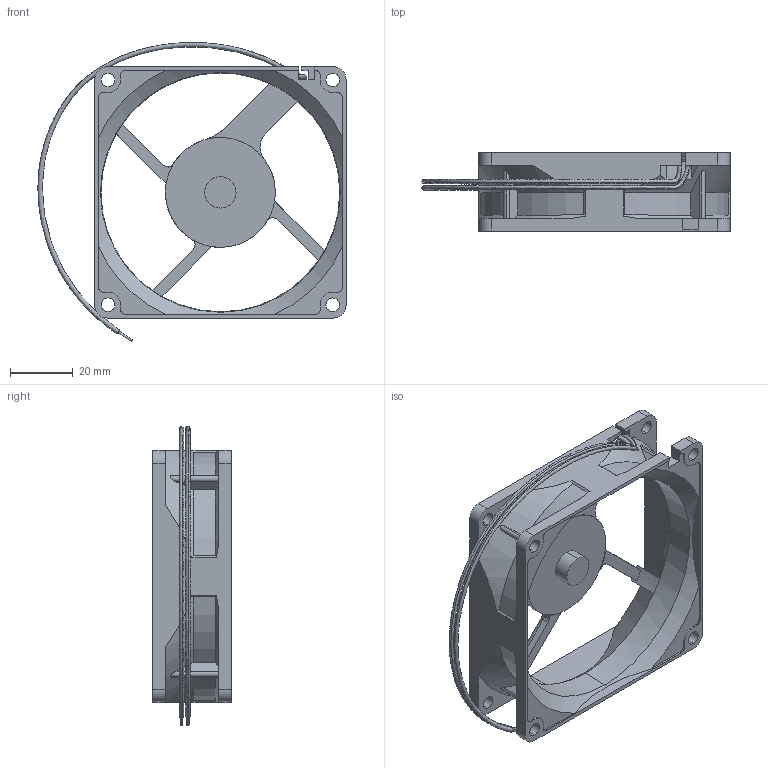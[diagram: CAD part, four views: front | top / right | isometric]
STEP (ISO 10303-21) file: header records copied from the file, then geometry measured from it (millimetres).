
FILE_DESCRIPTION (( 'STEP AP203' ), '1' );
FILE_NAME ('3110RL.STEP', '2017-01-20T07:38:25', ( 'ced' ), ( 'Hewlett-Packard Company' ), 'SwSTEP 2.0', 'SolidWorks 2014', '' );
FILE_SCHEMA (( 'CONFIG_CONTROL_DESIGN' ));
Length unit declared in the file: millimetre
Products named in the file (1): 3110RL
Bounding box: 98.06 x 25 x 95.18 mm (x, y, z)
Volume: 23548.9 mm3; surface area: 24680.5 mm2
Topology: 5 solids, 5 shells, 268 faces, 764 edges, 499 vertices
Faces by surface type: plane 127, cylinder 98, cone 23, bspline 20
Entity records: 11930 total; most frequent: CARTESIAN_POINT 4967, ORIENTED_EDGE 1528, DIRECTION 1365, EDGE_CURVE 764, VERTEX_POINT 499, AXIS2_PLACEMENT_3D 488, VECTOR 389, LINE 389
